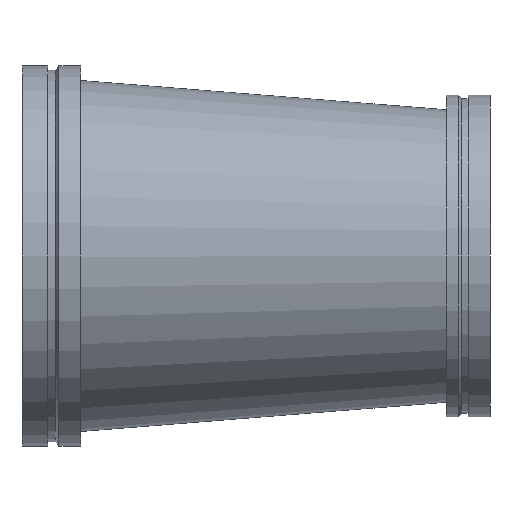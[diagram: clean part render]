
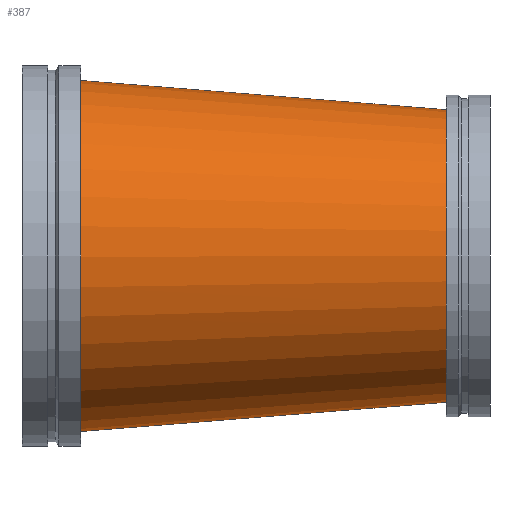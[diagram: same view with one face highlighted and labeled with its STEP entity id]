
A CAD part, front view. The second image highlights one B-rep face of the part: STEP entity #387.
In plain terms, the highlighted free-form (B-spline) face has degree [1, 2] with [2, 9] control points.
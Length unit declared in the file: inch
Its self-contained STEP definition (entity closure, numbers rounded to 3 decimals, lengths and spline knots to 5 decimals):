
#46=B_SPLINE_CURVE_WITH_KNOTS('',1,(#747,#748),.UNSPECIFIED.,.F.,.F.,(2,
2),(-2.097,-0.0005),.UNSPECIFIED.);
#48=(
BOUNDED_SURFACE()
B_SPLINE_SURFACE(1,2,((#729,#730,#731,#732,#733,#734,#735,#736,#737),(#738,
#739,#740,#741,#742,#743,#744,#745,#746)),.UNSPECIFIED.,.F.,.T.,.F.)
B_SPLINE_SURFACE_WITH_KNOTS((2,2),(3,2,2,2,3),(-0.07949,2.16283),
(-3.14159,-1.5708,0.,1.5708,3.14159),
 .UNSPECIFIED.)
GEOMETRIC_REPRESENTATION_ITEM()
RATIONAL_B_SPLINE_SURFACE(((1.,0.707,1.,0.707,1.,
0.707,1.,0.707,1.),(1.,0.707,1.,0.707,
1.,0.707,1.,0.707,1.)))
REPRESENTATION_ITEM('')
SURFACE()
);
#98=FACE_OUTER_BOUND('',#120,.T.);
#120=EDGE_LOOP('',(#321,#322,#323,#324,#325,#326));
#129=CIRCLE('',#415,10.);
#130=CIRCLE('',#416,10.);
#153=CIRCLE('',#450,12.);
#154=CIRCLE('',#451,12.);
#166=VERTEX_POINT('',#628);
#167=VERTEX_POINT('',#629);
#190=VERTEX_POINT('',#695);
#191=VERTEX_POINT('',#696);
#203=EDGE_CURVE('',#166,#167,#129,.T.);
#204=EDGE_CURVE('',#167,#166,#130,.T.);
#235=EDGE_CURVE('',#190,#191,#153,.T.);
#236=EDGE_CURVE('',#191,#190,#154,.T.);
#243=EDGE_CURVE('',#167,#191,#46,.T.);
#321=ORIENTED_EDGE('',*,*,#203,.T.);
#322=ORIENTED_EDGE('',*,*,#243,.T.);
#323=ORIENTED_EDGE('',*,*,#236,.T.);
#324=ORIENTED_EDGE('',*,*,#235,.T.);
#325=ORIENTED_EDGE('',*,*,#243,.F.);
#326=ORIENTED_EDGE('',*,*,#204,.T.);
#387=ADVANCED_FACE('',(#98),#48,.F.);
#415=AXIS2_PLACEMENT_3D('',#630,#486,#487);
#416=AXIS2_PLACEMENT_3D('',#631,#488,#489);
#450=AXIS2_PLACEMENT_3D('',#697,#564,#565);
#451=AXIS2_PLACEMENT_3D('',#698,#566,#567);
#486=DIRECTION('center_axis',(-1.,0.,0.));
#487=DIRECTION('ref_axis',(0.,-1.,0.));
#488=DIRECTION('center_axis',(-1.,0.,0.));
#489=DIRECTION('ref_axis',(0.,-1.,0.));
#564=DIRECTION('center_axis',(1.,0.,0.));
#565=DIRECTION('ref_axis',(0.,1.,0.));
#566=DIRECTION('center_axis',(1.,0.,0.));
#567=DIRECTION('ref_axis',(0.,1.,0.));
#628=CARTESIAN_POINT('',(29.,-12.,0.));
#629=CARTESIAN_POINT('',(29.,-2.06319,9.9998));
#630=CARTESIAN_POINT('Origin',(29.,-2.,0.));
#631=CARTESIAN_POINT('Origin',(29.,-2.,0.));
#695=CARTESIAN_POINT('',(4.,12.,0.));
#696=CARTESIAN_POINT('',(4.,-0.07583,11.99976));
#697=CARTESIAN_POINT('Origin',(4.,0.,0.));
#698=CARTESIAN_POINT('Origin',(4.,0.,0.));
#729=CARTESIAN_POINT('Ctrl Pts',(3.04607,0.,
12.07607));
#730=CARTESIAN_POINT('Ctrl Pts',(2.09213,-12.,12.07607));
#731=CARTESIAN_POINT('Ctrl Pts',(2.09213,-12.,0.));
#732=CARTESIAN_POINT('Ctrl Pts',(2.09213,-12.,-12.07607));
#733=CARTESIAN_POINT('Ctrl Pts',(3.04607,0.,
-12.07607));
#734=CARTESIAN_POINT('Ctrl Pts',(4.,12.,-12.07607));
#735=CARTESIAN_POINT('Ctrl Pts',(4.,12.,0.));
#736=CARTESIAN_POINT('Ctrl Pts',(4.,12.,12.07607));
#737=CARTESIAN_POINT('Ctrl Pts',(3.04607,0.,
12.07607));
#738=CARTESIAN_POINT('Ctrl Pts',(29.78496,-2.12559,9.937));
#739=CARTESIAN_POINT('Ctrl Pts',(29.,-12.,9.937));
#740=CARTESIAN_POINT('Ctrl Pts',(29.,-12.,0.));
#741=CARTESIAN_POINT('Ctrl Pts',(29.,-12.,-9.937));
#742=CARTESIAN_POINT('Ctrl Pts',(29.78496,-2.12559,-9.937));
#743=CARTESIAN_POINT('Ctrl Pts',(30.56992,7.74881,-9.937));
#744=CARTESIAN_POINT('Ctrl Pts',(30.56992,7.74881,0.));
#745=CARTESIAN_POINT('Ctrl Pts',(30.56992,7.74881,9.937));
#746=CARTESIAN_POINT('Ctrl Pts',(29.78496,-2.12559,9.937));
#747=CARTESIAN_POINT('Ctrl Pts',(29.,-2.06319,9.9998));
#748=CARTESIAN_POINT('Ctrl Pts',(4.,-0.07583,11.99976));
